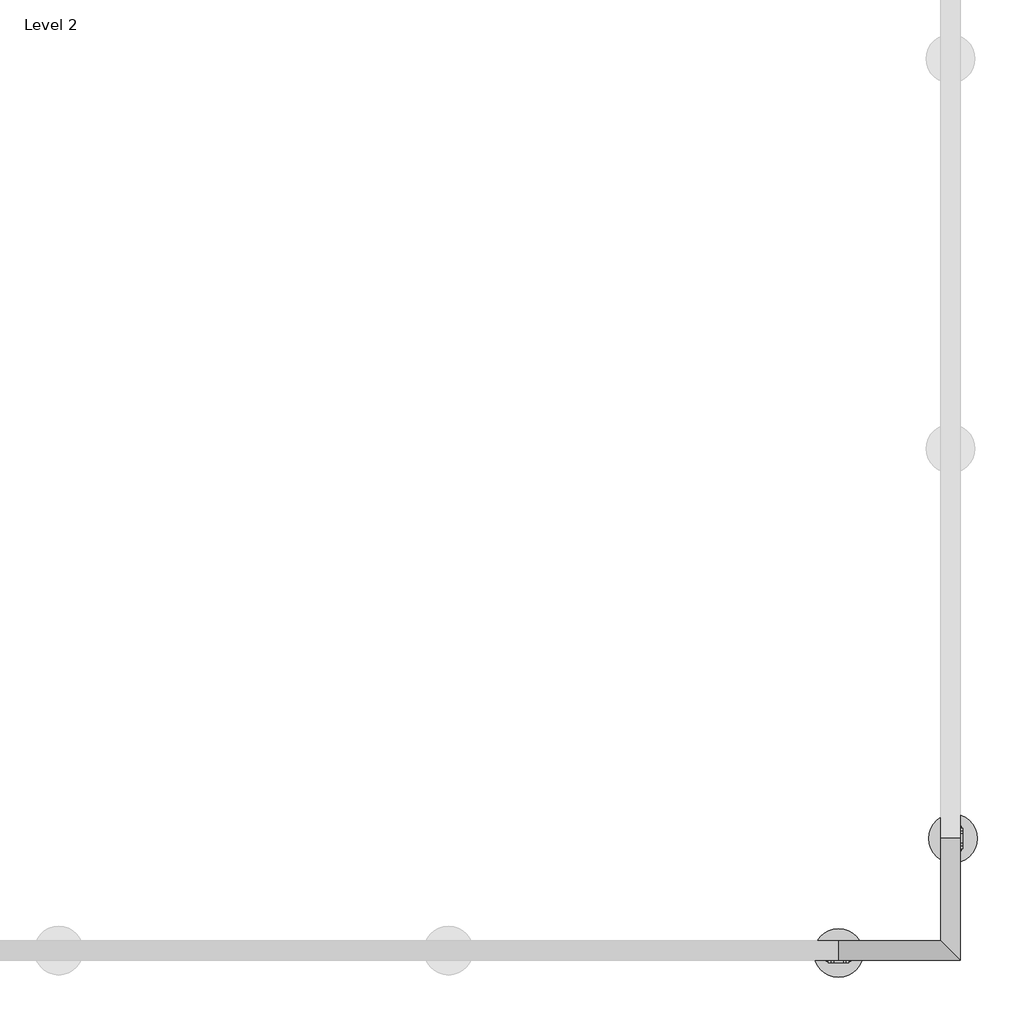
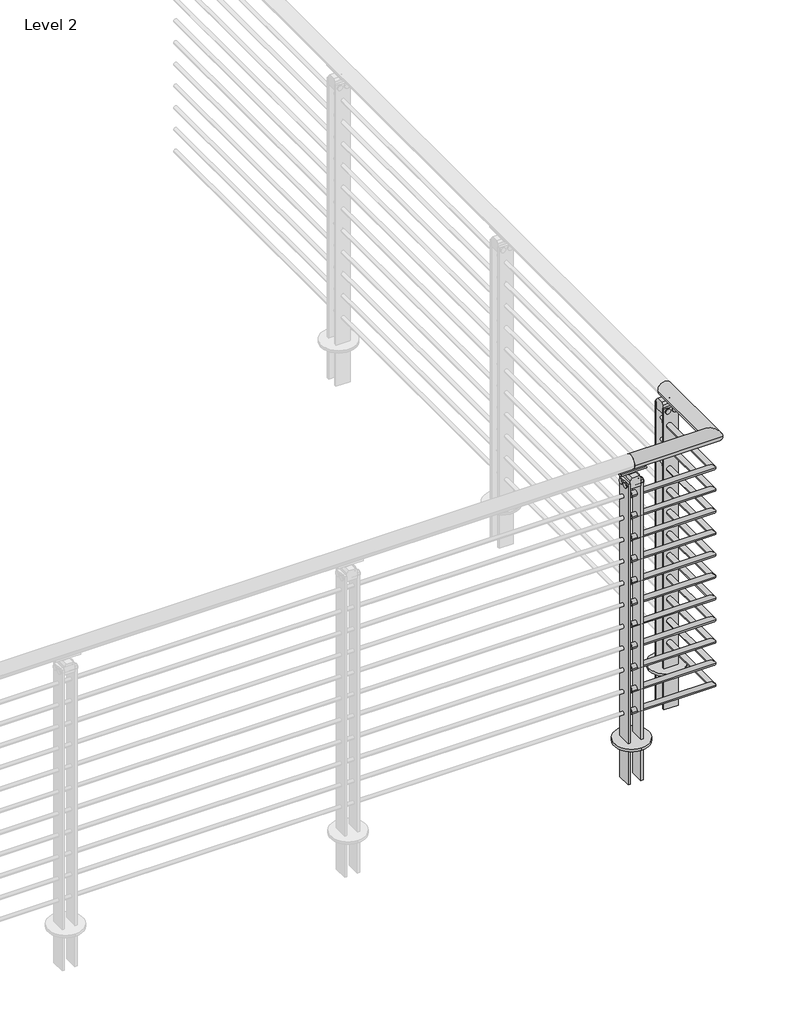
# One storey, part 18 of 31: 1 railing.
"""IFC4 building model written with IfcOpenShell, lengths in millimetres."""

import ifcopenshell
import ifcopenshell.guid

model = None  # the IFC model being written
_history = None  # IfcOwnerHistory: only IFC2X3 demands one
_inside = {}  # id of a spatial element -> (the spatial element, [elements in it])
_under = {}  # id of a project, library or spatial element -> (it, [spatial elements below it])
_declared = {}  # id of a project -> (the project, [libraries it declares])
_typed = {}  # id of a type object -> (the type object, [elements of that type])
_made_of = {}  # id of a material, layer set ... -> (it, [elements and type objects made of it])


def new_model(schema):
    """Start an empty IFC model of exactly this schema.

    Asked for "IFC4X3", IfcOpenShell would pick the latest addendum, in which some entities
    have other attributes; the version numbers below select the first issue.
    IFC2X3 requires an IfcOwnerHistory on every rooted entity: one is made here for all.
    """
    global model, _history
    if schema == "IFC4X3":
        model = ifcopenshell.file(schema_version=(4, 3, 0, 0))
    else:
        model = ifcopenshell.file(schema=schema)
    _inside.clear()
    _under.clear()
    _declared.clear()
    _typed.clear()
    _made_of.clear()
    _history = None
    if model.schema == "IFC2X3":
        org = make("IfcOrganization", Name="unknown")
        user = make(
            "IfcPersonAndOrganization",
            ThePerson=make("IfcPerson", FamilyName="unknown"),
            TheOrganization=org,
        )
        app = make(
            "IfcApplication",
            ApplicationDeveloper=org,
            Version="unknown",
            ApplicationFullName="unknown",
            ApplicationIdentifier="unknown",
        )
        _history = make(
            "IfcOwnerHistory",
            OwningUser=user,
            OwningApplication=app,
            ChangeAction="ADDED",
            CreationDate=0,
        )
    return model


def make(cls, **values):
    """One entity of the class cls with the attributes given. An attribute that is None is left unset."""
    return model.create_entity(
        cls, **{name: value for name, value in values.items() if value is not None}
    )


def rooted(cls, **values):
    """An entity with a GlobalId (a new one), such as an element, a storey or a relation."""
    return make(cls, GlobalId=ifcopenshell.guid.new(), OwnerHistory=_history, **values)


def si_unit(unit_type, name, prefix=None):
    """IfcSIUnit, for example si_unit("LENGTHUNIT", "METRE", prefix="MILLI")."""
    return make("IfcSIUnit", UnitType=unit_type, Prefix=prefix, Name=name)


def assignment(units):
    """IfcUnitAssignment: the units of a project."""
    return None if units is None else make("IfcUnitAssignment", Units=units)


def point(xyz):
    """IfcCartesianPoint."""
    return None if xyz is None else make("IfcCartesianPoint", Coordinates=xyz)


def direction(xyz):
    """IfcDirection."""
    return None if xyz is None else make("IfcDirection", DirectionRatios=xyz)


def frame(location, z_axis=None, x_axis=None):
    """IfcAxis2Placement3D, a coordinate frame: its origin and axes. An axis left out is left unset."""
    return make(
        "IfcAxis2Placement3D",
        Location=point(location),
        Axis=direction(z_axis),
        RefDirection=direction(x_axis),
    )


def frame_2d(location, x_axis=None):
    """IfcAxis2Placement2D, a coordinate frame in the plane: its origin and x axis."""
    return make(
        "IfcAxis2Placement2D", Location=point(location), RefDirection=direction(x_axis)
    )


def origin():
    """The frame at (0, 0, 0) with its axes left unset."""
    return frame((0.0, 0.0, 0.0))


def place(relative_to, where):
    """IfcLocalPlacement: puts the frame where relative to a parent placement (None: the world)."""
    return make(
        "IfcLocalPlacement", PlacementRelTo=relative_to, RelativePlacement=where
    )


def context(
    kind, dimensions, precision=None, world=None, true_north=None, identifier=None
):
    """IfcGeometricRepresentationContext, for example the 3D "Model" context."""
    return make(
        "IfcGeometricRepresentationContext",
        ContextIdentifier=identifier,
        ContextType=kind,
        CoordinateSpaceDimension=dimensions,
        Precision=precision,
        WorldCoordinateSystem=world,
        TrueNorth=true_north,
    )


def project(units=None, contexts=None):
    """IfcProject with its units and contexts."""
    return rooted(
        "IfcProject",
        Name="project",
        RepresentationContexts=contexts,
        UnitsInContext=assignment(units),
    )


def spatial(cls, under=None, at=None, **own):
    """A site, building, storey or space (cls), placed at a placement, below another one or the project."""
    s = rooted(cls, ObjectPlacement=at, **own)
    if under is not None:
        _under.setdefault(under.id(), (under, []))[1].append(s)
    return s


def polyline(points):
    """IfcPolyline through the points."""
    return make("IfcPolyline", Points=[point(p) for p in points])


def circle_curve(where, radius):
    """IfcCircle in the frame where."""
    return make("IfcCircle", Position=where, Radius=radius)


def ellipse_curve(where, semi_axis1, semi_axis2):
    """IfcEllipse in the frame where."""
    return make(
        "IfcEllipse", Position=where, SemiAxis1=semi_axis1, SemiAxis2=semi_axis2
    )


def trimmed(basis, trim1, trim2, sense, master):
    """IfcTrimmedCurve: the piece of a basis curve between two trims."""
    return make(
        "IfcTrimmedCurve",
        BasisCurve=basis,
        Trim1=trim1,
        Trim2=trim2,
        SenseAgreement=sense,
        MasterRepresentation=master,
    )


def segment(curve, same_sense, transition):
    """IfcCompositeCurveSegment."""
    return make(
        "IfcCompositeCurveSegment",
        Transition=transition,
        SameSense=same_sense,
        ParentCurve=curve,
    )


def composite_curve(segments, self_intersect=None):
    """IfcCompositeCurve: segments joined end to end."""
    return make("IfcCompositeCurve", Segments=segments, SelfIntersect=self_intersect)


def outline(outer, holes=None, kind="AREA"):
    """IfcArbitraryClosedProfileDef: a profile drawn as a closed curve; with holes, ...WithVoids."""
    if holes is None:
        return make("IfcArbitraryClosedProfileDef", ProfileType=kind, OuterCurve=outer)
    return make(
        "IfcArbitraryProfileDefWithVoids",
        ProfileType=kind,
        OuterCurve=outer,
        InnerCurves=holes,
    )


def extrude(swept, where, along, depth):
    """IfcExtrudedAreaSolid: the profile swept, set in the frame where, extruded along a direction by depth."""
    return make(
        "IfcExtrudedAreaSolid",
        SweptArea=swept,
        Position=where,
        ExtrudedDirection=direction(along),
        Depth=depth,
    )


def shape(context_of_items, identifier, shape_type, items):
    """IfcShapeRepresentation: the items that make up one representation, for example the "Body"."""
    return make(
        "IfcShapeRepresentation",
        ContextOfItems=context_of_items,
        RepresentationIdentifier=identifier,
        RepresentationType=shape_type,
        Items=items,
    )


def made_of(thing, what):
    """Note that an element or type object is made of a material, layer set ...; save() writes the relation."""
    if what is not None:
        _made_of.setdefault(what.id(), (what, []))[1].append(thing)
    return thing


def element(
    cls,
    number,
    at=None,
    inside=None,
    cuts=None,
    type_object=None,
    material=None,
    context=None,
    identifier="Body",
    shape_type=None,
    held_by="IfcProductDefinitionShape",
    body=None,
    shapes=None,
    **own,
):
    """One element of the class cls, such as IfcWall. Its Tag is "e" and its number.

    at: its placement. inside: the storey or other place that contains it. cuts: it is an
    opening in that element (IfcRelVoidsElement). A single representation is given by context,
    identifier, shape_type and body (its items); several are given by shapes. held_by: the class
    of the entity that holds the representations. save() writes the other relations.
    """
    e = rooted(cls, Tag="e%d" % number, ObjectPlacement=at, **own)
    if body is not None:
        shapes = [shape(context, identifier, shape_type, body)]
    if shapes is not None:
        e.Representation = make(held_by, Representations=shapes)
    if inside is not None:
        _inside.setdefault(inside.id(), (inside, []))[1].append(e)
    if cuts is not None:
        rooted(
            "IfcRelVoidsElement", RelatingBuildingElement=cuts, RelatedOpeningElement=e
        )
    if type_object is not None:
        _typed.setdefault(type_object.id(), (type_object, []))[1].append(e)
    return made_of(e, material)


def aggregate(whole, parts):
    """IfcRelAggregates: a whole, such as a stair, and the parts it consists of."""
    return rooted("IfcRelAggregates", RelatingObject=whole, RelatedObjects=parts)


def save(model, path):
    """Write the relations noted so far, then the file.

    IfcRelAggregates (storeys below a building ...), IfcRelContainedInSpatialStructure (elements
    in a storey), IfcRelDefinesByType, IfcRelAssociatesMaterial and IfcRelDeclares: one each for
    every whole, place, type object, material and project.
    """
    for whole, parts in _under.values():
        aggregate(whole, parts)
    for where, things in _inside.values():
        rooted(
            "IfcRelContainedInSpatialStructure",
            RelatedElements=things,
            RelatingStructure=where,
        )
    for kind, things in _typed.values():
        rooted("IfcRelDefinesByType", RelatedObjects=things, RelatingType=kind)
    for what, things in _made_of.values():
        rooted("IfcRelAssociatesMaterial", RelatedObjects=things, RelatingMaterial=what)
    for by, libraries in _declared.values():
        rooted("IfcRelDeclares", RelatingContext=by, RelatedDefinitions=libraries)
    model.write(path)


def plane_surface(at):
    """IfcPlane: the flat surface through the origin of the frame at, square to its z axis."""
    return make("IfcPlane", Position=at)


def cylinder_surface(at, radius):
    """IfcCylindricalSurface: all points at the distance radius from the z axis of the frame at."""
    return make("IfcCylindricalSurface", Position=at, Radius=radius)


def revolved_surface(curve, axis_point, axis_direction):
    """IfcSurfaceOfRevolution: the curve turned about the line through axis_point along axis_direction."""
    return make(
        "IfcSurfaceOfRevolution",
        SweptCurve=make("IfcArbitraryOpenProfileDef", ProfileType="CURVE", Curve=curve),
        AxisPosition=make("IfcAxis1Placement", Location=point(axis_point), Axis=direction(axis_direction)),
    )


def advanced_brep(points, edges, surfaces, faces):
    """IfcAdvancedBrep: a solid bounded by faces that lie on surfaces and meet in shared edges.

    An edge is (start, end): straight between two places in points (the first is 0);
    or (start, end, curve); or (start, end, curve, False) where it runs against its curve.
    A face is (place in surfaces, loops), or (place, loops, False) where it looks against
    its surface's normal. A loop lists edges by number (the first is 1), with a minus sign
    where the edge is run from its end to its start. The first loop is the outer one.
    """
    corners = [point(p) for p in points]
    vertices = [make("IfcVertexPoint", VertexGeometry=c) for c in corners]
    made = []
    for start, end, *more in edges:
        made.append(
            make(
                "IfcEdgeCurve",
                EdgeStart=vertices[start],
                EdgeEnd=vertices[end],
                EdgeGeometry=more[0] if more else make("IfcPolyline", Points=[corners[start], corners[end]]),
                SameSense=more[1] if len(more) > 1 else True,
            )
        )
    hull = []
    for where, loops, *sense in faces:
        bounds = []
        for j, loop in enumerate(loops):
            ring = [make("IfcOrientedEdge", EdgeElement=made[abs(k) - 1], Orientation=k > 0) for k in loop]
            bounds.append(
                make(
                    "IfcFaceOuterBound" if j == 0 else "IfcFaceBound",
                    Bound=make("IfcEdgeLoop", EdgeList=ring),
                    Orientation=True,
                )
            )
        hull.append(make("IfcAdvancedFace", Bounds=bounds, FaceSurface=surfaces[where], SameSense=sense[0] if sense else True))
    return make("IfcAdvancedBrep", Outer=make("IfcClosedShell", CfsFaces=hull))


model = new_model("IFC4")

# Units and contexts
model_context = context("Model", 3, world=origin())
ifc_project = project(units=[si_unit("LENGTHUNIT", "METRE", prefix="MILLI")], contexts=[model_context])

# Site, building, storey
site = spatial("IfcSite", under=ifc_project)
building = spatial("IfcBuilding", under=site)
storey = spatial("IfcBuildingStorey", under=building, Name="Level 2", Elevation=3048.0)

# Railing
placement = place(None, origin())
element("IfcRailing", 1, ObjectType="VIVA-BLADE-Multiline-Core Mount-Corner", at=placement, inside=storey, context=model_context, shape_type="SolidModel", body=[
    advanced_brep(
    [(70792.0617686, -69960.9426165, 4102.1), (70792.0617686, -69910.1426165, 4102.1), (71109.5617686, -69960.9426165, 4102.1), (71058.7617686, -69910.1426165, 4102.1), (71109.5617686, -69643.4426165, 4102.1), (71058.7617686, -69643.4426165, 4102.1)],
    [
        (0, 1, circle_curve(frame((70792.0617686, -69935.5426165, 4102.1), z_axis=(-1.0, 0.0, 0.0), x_axis=(0.0, 1.0, 0.0)), 25.4)),
        (1, 0, circle_curve(frame((70792.0617686, -69935.5426165, 4102.1), z_axis=(-1.0, 0.0, 0.0), x_axis=(0.0, 1.0, 0.0)), 25.4)),
        (0, 2),
        (2, 3, ellipse_curve(frame((71084.1617686, -69935.5426165, 4102.1), z_axis=(-0.7071067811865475, -0.7071067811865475, 0.0), x_axis=(-0.7071067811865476, 0.7071067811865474, 0.0)), 35.9210245, 25.4)),
        (3, 1),
        (3, 2, ellipse_curve(frame((71084.1617686, -69935.5426165, 4102.1), z_axis=(-0.7071067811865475, -0.7071067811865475, 0.0), x_axis=(-0.7071067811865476, 0.7071067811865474, 0.0)), 35.9210245, 25.4)),
        (4, 5, circle_curve(frame((71084.1617686, -69643.4426165, 4102.1), z_axis=(0.0, 1.0, 0.0), x_axis=(-1.0, 0.0, 0.0)), 25.4)),
        (5, 4, circle_curve(frame((71084.1617686, -69643.4426165, 4102.1), z_axis=(0.0, 1.0, 0.0), x_axis=(-1.0, 0.0, 0.0)), 25.4)),
        (2, 4),
        (5, 3),
    ],
    [
        plane_surface(frame((70792.0617686, -69935.5426165, 4127.5), z_axis=(-1.0, 0.0, 0.0), x_axis=(0.0, 1.0, 0.0))),
        cylinder_surface(frame((70792.0617686, -69935.5426165, 4102.1), z_axis=(-1.0, 0.0, 0.0), x_axis=(0.0, 1.0, 0.0)), 25.4),
        plane_surface(frame((71084.1617686, -69643.4426165, 4127.5), z_axis=(0.0, 1.0, 0.0), x_axis=(0.0, 0.0, 1.0))),
        cylinder_surface(frame((71084.1617686, -69935.5426165, 4102.1), z_axis=(0.0, -1.0, 0.0), x_axis=(-1.0, 0.0, 0.0)), 25.4),
    ],
    [
        (0, [[1, 2]]),
        (1, [[-1, 3, 4, 5]]),
        (1, [[-2, -5, 6, -3]]),
        (2, [[7, 8]]),
        (3, [[-4, 9, -8, 10]]),
        (3, [[-6, -10, -7, -9]]),
    ],
),
    advanced_brep(
    [(70792.0617686, -69926.0176165, 3978.275), (70792.0617686, -69945.0676165, 3978.275), (71074.6367686, -69926.0176165, 3978.275), (71093.6867686, -69945.0676165, 3978.275), (71074.6367686, -69643.4426165, 3978.275), (71093.6867686, -69643.4426165, 3978.275)],
    [
        (0, 1, circle_curve(frame((70792.0617686, -69935.5426165, 3978.275), z_axis=(-1.0, 0.0, 0.0), x_axis=(0.0, -1.0, 0.0)), 9.525)),
        (1, 0, circle_curve(frame((70792.0617686, -69935.5426165, 3978.275), z_axis=(-1.0, 0.0, 0.0), x_axis=(0.0, -1.0, 0.0)), 9.525)),
        (0, 2),
        (2, 3, ellipse_curve(frame((71084.1617686, -69935.5426165, 3978.275), z_axis=(-0.7071067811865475, -0.7071067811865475, 0.0), x_axis=(-0.7071067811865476, 0.7071067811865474, 0.0)), 13.4703842, 9.525)),
        (3, 1),
        (3, 2, ellipse_curve(frame((71084.1617686, -69935.5426165, 3978.275), z_axis=(-0.7071067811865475, -0.7071067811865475, 0.0), x_axis=(-0.7071067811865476, 0.7071067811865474, 0.0)), 13.4703842, 9.525)),
        (4, 5, circle_curve(frame((71084.1617686, -69643.4426165, 3978.275), z_axis=(0.0, 1.0, 0.0), x_axis=(1.0, 0.0, 0.0)), 9.525)),
        (5, 4, circle_curve(frame((71084.1617686, -69643.4426165, 3978.275), z_axis=(0.0, 1.0, 0.0), x_axis=(1.0, 0.0, 0.0)), 9.525)),
        (2, 4),
        (5, 3),
    ],
    [
        plane_surface(frame((70792.0617686, -69935.5426165, 3987.8), z_axis=(-1.0, 0.0, 0.0), x_axis=(0.0, 1.0, 0.0))),
        cylinder_surface(frame((70792.0617686, -69935.5426165, 3978.275), z_axis=(-1.0, 0.0, 0.0), x_axis=(0.0, -1.0, 0.0)), 9.525),
        plane_surface(frame((71084.1617686, -69643.4426165, 3987.8), z_axis=(0.0, 1.0, 0.0), x_axis=(0.0, 0.0, 1.0))),
        cylinder_surface(frame((71084.1617686, -69935.5426165, 3978.275), z_axis=(0.0, -1.0, 0.0), x_axis=(1.0, 0.0, 0.0)), 9.525),
    ],
    [
        (0, [[1, 2]]),
        (1, [[-1, 3, 4, 5]]),
        (1, [[-2, -5, 6, -3]]),
        (2, [[7, 8]]),
        (3, [[-4, 9, -8, 10]]),
        (3, [[-6, -10, -7, -9]]),
    ],
),
    advanced_brep(
    [(70792.0617686, -69926.0176165, 3895.725), (70792.0617686, -69945.0676165, 3895.725), (71074.6367686, -69926.0176165, 3895.725), (71093.6867686, -69945.0676165, 3895.725), (71074.6367686, -69643.4426165, 3895.725), (71093.6867686, -69643.4426165, 3895.725)],
    [
        (0, 1, circle_curve(frame((70792.0617686, -69935.5426165, 3895.725), z_axis=(-1.0, 0.0, 0.0), x_axis=(0.0, -1.0, 0.0)), 9.525)),
        (1, 0, circle_curve(frame((70792.0617686, -69935.5426165, 3895.725), z_axis=(-1.0, 0.0, 0.0), x_axis=(0.0, -1.0, 0.0)), 9.525)),
        (0, 2),
        (2, 3, ellipse_curve(frame((71084.1617686, -69935.5426165, 3895.725), z_axis=(-0.7071067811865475, -0.7071067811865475, 0.0), x_axis=(-0.7071067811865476, 0.7071067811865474, 0.0)), 13.4703842, 9.525)),
        (3, 1),
        (3, 2, ellipse_curve(frame((71084.1617686, -69935.5426165, 3895.725), z_axis=(-0.7071067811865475, -0.7071067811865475, 0.0), x_axis=(-0.7071067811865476, 0.7071067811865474, 0.0)), 13.4703842, 9.525)),
        (4, 5, circle_curve(frame((71084.1617686, -69643.4426165, 3895.725), z_axis=(0.0, 1.0, 0.0), x_axis=(1.0, 0.0, 0.0)), 9.525)),
        (5, 4, circle_curve(frame((71084.1617686, -69643.4426165, 3895.725), z_axis=(0.0, 1.0, 0.0), x_axis=(1.0, 0.0, 0.0)), 9.525)),
        (2, 4),
        (5, 3),
    ],
    [
        plane_surface(frame((70792.0617686, -69935.5426165, 3905.25), z_axis=(-1.0, 0.0, 0.0), x_axis=(0.0, 1.0, 0.0))),
        cylinder_surface(frame((70792.0617686, -69935.5426165, 3895.725), z_axis=(-1.0, 0.0, 0.0), x_axis=(0.0, -1.0, 0.0)), 9.525),
        plane_surface(frame((71084.1617686, -69643.4426165, 3905.25), z_axis=(0.0, 1.0, 0.0), x_axis=(0.0, 0.0, 1.0))),
        cylinder_surface(frame((71084.1617686, -69935.5426165, 3895.725), z_axis=(0.0, -1.0, 0.0), x_axis=(1.0, 0.0, 0.0)), 9.525),
    ],
    [
        (0, [[1, 2]]),
        (1, [[-1, 3, 4, 5]]),
        (1, [[-2, -5, 6, -3]]),
        (2, [[7, 8]]),
        (3, [[-4, 9, -8, 10]]),
        (3, [[-6, -10, -7, -9]]),
    ],
),
    advanced_brep(
    [(70792.0617686, -69926.0176165, 3813.175), (70792.0617686, -69945.0676165, 3813.175), (71074.6367686, -69926.0176165, 3813.175), (71093.6867686, -69945.0676165, 3813.175), (71074.6367686, -69643.4426165, 3813.175), (71093.6867686, -69643.4426165, 3813.175)],
    [
        (0, 1, circle_curve(frame((70792.0617686, -69935.5426165, 3813.175), z_axis=(-1.0, 0.0, 0.0), x_axis=(0.0, -1.0, 0.0)), 9.525)),
        (1, 0, circle_curve(frame((70792.0617686, -69935.5426165, 3813.175), z_axis=(-1.0, 0.0, 0.0), x_axis=(0.0, -1.0, 0.0)), 9.525)),
        (0, 2),
        (2, 3, ellipse_curve(frame((71084.1617686, -69935.5426165, 3813.175), z_axis=(-0.7071067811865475, -0.7071067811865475, 0.0), x_axis=(-0.7071067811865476, 0.7071067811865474, 0.0)), 13.4703842, 9.525)),
        (3, 1),
        (3, 2, ellipse_curve(frame((71084.1617686, -69935.5426165, 3813.175), z_axis=(-0.7071067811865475, -0.7071067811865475, 0.0), x_axis=(-0.7071067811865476, 0.7071067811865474, 0.0)), 13.4703842, 9.525)),
        (4, 5, circle_curve(frame((71084.1617686, -69643.4426165, 3813.175), z_axis=(0.0, 1.0, 0.0), x_axis=(1.0, 0.0, 0.0)), 9.525)),
        (5, 4, circle_curve(frame((71084.1617686, -69643.4426165, 3813.175), z_axis=(0.0, 1.0, 0.0), x_axis=(1.0, 0.0, 0.0)), 9.525)),
        (2, 4),
        (5, 3),
    ],
    [
        plane_surface(frame((70792.0617686, -69935.5426165, 3822.7), z_axis=(-1.0, 0.0, 0.0), x_axis=(0.0, 1.0, 0.0))),
        cylinder_surface(frame((70792.0617686, -69935.5426165, 3813.175), z_axis=(-1.0, 0.0, 0.0), x_axis=(0.0, -1.0, 0.0)), 9.525),
        plane_surface(frame((71084.1617686, -69643.4426165, 3822.7), z_axis=(0.0, 1.0, 0.0), x_axis=(0.0, 0.0, 1.0))),
        cylinder_surface(frame((71084.1617686, -69935.5426165, 3813.175), z_axis=(0.0, -1.0, 0.0), x_axis=(1.0, 0.0, 0.0)), 9.525),
    ],
    [
        (0, [[1, 2]]),
        (1, [[-1, 3, 4, 5]]),
        (1, [[-2, -5, 6, -3]]),
        (2, [[7, 8]]),
        (3, [[-4, 9, -8, 10]]),
        (3, [[-6, -10, -7, -9]]),
    ],
),
    advanced_brep(
    [(70792.0617686, -69926.0176165, 3730.625), (70792.0617686, -69945.0676165, 3730.625), (71074.6367686, -69926.0176165, 3730.625), (71093.6867686, -69945.0676165, 3730.625), (71074.6367686, -69643.4426165, 3730.625), (71093.6867686, -69643.4426165, 3730.625)],
    [
        (0, 1, circle_curve(frame((70792.0617686, -69935.5426165, 3730.625), z_axis=(-1.0, 0.0, 0.0), x_axis=(0.0, -1.0, 0.0)), 9.525)),
        (1, 0, circle_curve(frame((70792.0617686, -69935.5426165, 3730.625), z_axis=(-1.0, 0.0, 0.0), x_axis=(0.0, -1.0, 0.0)), 9.525)),
        (0, 2),
        (2, 3, ellipse_curve(frame((71084.1617686, -69935.5426165, 3730.625), z_axis=(-0.7071067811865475, -0.7071067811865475, 0.0), x_axis=(-0.7071067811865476, 0.7071067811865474, 0.0)), 13.4703842, 9.525)),
        (3, 1),
        (3, 2, ellipse_curve(frame((71084.1617686, -69935.5426165, 3730.625), z_axis=(-0.7071067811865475, -0.7071067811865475, 0.0), x_axis=(-0.7071067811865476, 0.7071067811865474, 0.0)), 13.4703842, 9.525)),
        (4, 5, circle_curve(frame((71084.1617686, -69643.4426165, 3730.625), z_axis=(0.0, 1.0, 0.0), x_axis=(1.0, 0.0, 0.0)), 9.525)),
        (5, 4, circle_curve(frame((71084.1617686, -69643.4426165, 3730.625), z_axis=(0.0, 1.0, 0.0), x_axis=(1.0, 0.0, 0.0)), 9.525)),
        (2, 4),
        (5, 3),
    ],
    [
        plane_surface(frame((70792.0617686, -69935.5426165, 3740.15), z_axis=(-1.0, 0.0, 0.0), x_axis=(0.0, 1.0, 0.0))),
        cylinder_surface(frame((70792.0617686, -69935.5426165, 3730.625), z_axis=(-1.0, 0.0, 0.0), x_axis=(0.0, -1.0, 0.0)), 9.525),
        plane_surface(frame((71084.1617686, -69643.4426165, 3740.15), z_axis=(0.0, 1.0, 0.0), x_axis=(0.0, 0.0, 1.0))),
        cylinder_surface(frame((71084.1617686, -69935.5426165, 3730.625), z_axis=(0.0, -1.0, 0.0), x_axis=(1.0, 0.0, 0.0)), 9.525),
    ],
    [
        (0, [[1, 2]]),
        (1, [[-1, 3, 4, 5]]),
        (1, [[-2, -5, 6, -3]]),
        (2, [[7, 8]]),
        (3, [[-4, 9, -8, 10]]),
        (3, [[-6, -10, -7, -9]]),
    ],
),
    advanced_brep(
    [(70792.0617686, -69926.0176165, 3648.075), (70792.0617686, -69945.0676165, 3648.075), (71074.6367686, -69926.0176165, 3648.075), (71093.6867686, -69945.0676165, 3648.075), (71074.6367686, -69643.4426165, 3648.075), (71093.6867686, -69643.4426165, 3648.075)],
    [
        (0, 1, circle_curve(frame((70792.0617686, -69935.5426165, 3648.075), z_axis=(-1.0, 0.0, 0.0), x_axis=(0.0, -1.0, 0.0)), 9.525)),
        (1, 0, circle_curve(frame((70792.0617686, -69935.5426165, 3648.075), z_axis=(-1.0, 0.0, 0.0), x_axis=(0.0, -1.0, 0.0)), 9.525)),
        (0, 2),
        (2, 3, ellipse_curve(frame((71084.1617686, -69935.5426165, 3648.075), z_axis=(-0.7071067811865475, -0.7071067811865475, 0.0), x_axis=(-0.7071067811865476, 0.7071067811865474, 0.0)), 13.4703842, 9.525)),
        (3, 1),
        (3, 2, ellipse_curve(frame((71084.1617686, -69935.5426165, 3648.075), z_axis=(-0.7071067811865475, -0.7071067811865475, 0.0), x_axis=(-0.7071067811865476, 0.7071067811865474, 0.0)), 13.4703842, 9.525)),
        (4, 5, circle_curve(frame((71084.1617686, -69643.4426165, 3648.075), z_axis=(0.0, 1.0, 0.0), x_axis=(1.0, 0.0, 0.0)), 9.525)),
        (5, 4, circle_curve(frame((71084.1617686, -69643.4426165, 3648.075), z_axis=(0.0, 1.0, 0.0), x_axis=(1.0, 0.0, 0.0)), 9.525)),
        (2, 4),
        (5, 3),
    ],
    [
        plane_surface(frame((70792.0617686, -69935.5426165, 3657.6), z_axis=(-1.0, 0.0, 0.0), x_axis=(0.0, 1.0, 0.0))),
        cylinder_surface(frame((70792.0617686, -69935.5426165, 3648.075), z_axis=(-1.0, 0.0, 0.0), x_axis=(0.0, -1.0, 0.0)), 9.525),
        plane_surface(frame((71084.1617686, -69643.4426165, 3657.6), z_axis=(0.0, 1.0, 0.0), x_axis=(0.0, 0.0, 1.0))),
        cylinder_surface(frame((71084.1617686, -69935.5426165, 3648.075), z_axis=(0.0, -1.0, 0.0), x_axis=(1.0, 0.0, 0.0)), 9.525),
    ],
    [
        (0, [[1, 2]]),
        (1, [[-1, 3, 4, 5]]),
        (1, [[-2, -5, 6, -3]]),
        (2, [[7, 8]]),
        (3, [[-4, 9, -8, 10]]),
        (3, [[-6, -10, -7, -9]]),
    ],
),
    advanced_brep(
    [(70792.0617686, -69926.0176165, 3565.525), (70792.0617686, -69945.0676165, 3565.525), (71074.6367686, -69926.0176165, 3565.525), (71093.6867686, -69945.0676165, 3565.525), (71074.6367686, -69643.4426165, 3565.525), (71093.6867686, -69643.4426165, 3565.525)],
    [
        (0, 1, circle_curve(frame((70792.0617686, -69935.5426165, 3565.525), z_axis=(-1.0, 0.0, 0.0), x_axis=(0.0, -1.0, 0.0)), 9.525)),
        (1, 0, circle_curve(frame((70792.0617686, -69935.5426165, 3565.525), z_axis=(-1.0, 0.0, 0.0), x_axis=(0.0, -1.0, 0.0)), 9.525)),
        (0, 2),
        (2, 3, ellipse_curve(frame((71084.1617686, -69935.5426165, 3565.525), z_axis=(-0.7071067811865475, -0.7071067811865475, 0.0), x_axis=(-0.7071067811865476, 0.7071067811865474, 0.0)), 13.4703842, 9.525)),
        (3, 1),
        (3, 2, ellipse_curve(frame((71084.1617686, -69935.5426165, 3565.525), z_axis=(-0.7071067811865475, -0.7071067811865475, 0.0), x_axis=(-0.7071067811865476, 0.7071067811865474, 0.0)), 13.4703842, 9.525)),
        (4, 5, circle_curve(frame((71084.1617686, -69643.4426165, 3565.525), z_axis=(0.0, 1.0, 0.0), x_axis=(1.0, 0.0, 0.0)), 9.525)),
        (5, 4, circle_curve(frame((71084.1617686, -69643.4426165, 3565.525), z_axis=(0.0, 1.0, 0.0), x_axis=(1.0, 0.0, 0.0)), 9.525)),
        (2, 4),
        (5, 3),
    ],
    [
        plane_surface(frame((70792.0617686, -69935.5426165, 3575.05), z_axis=(-1.0, 0.0, 0.0), x_axis=(0.0, 1.0, 0.0))),
        cylinder_surface(frame((70792.0617686, -69935.5426165, 3565.525), z_axis=(-1.0, 0.0, 0.0), x_axis=(0.0, -1.0, 0.0)), 9.525),
        plane_surface(frame((71084.1617686, -69643.4426165, 3575.05), z_axis=(0.0, 1.0, 0.0), x_axis=(0.0, 0.0, 1.0))),
        cylinder_surface(frame((71084.1617686, -69935.5426165, 3565.525), z_axis=(0.0, -1.0, 0.0), x_axis=(1.0, 0.0, 0.0)), 9.525),
    ],
    [
        (0, [[1, 2]]),
        (1, [[-1, 3, 4, 5]]),
        (1, [[-2, -5, 6, -3]]),
        (2, [[7, 8]]),
        (3, [[-4, 9, -8, 10]]),
        (3, [[-6, -10, -7, -9]]),
    ],
),
    advanced_brep(
    [(70792.0617686, -69926.0176165, 3482.975), (70792.0617686, -69945.0676165, 3482.975), (71074.6367686, -69926.0176165, 3482.975), (71093.6867686, -69945.0676165, 3482.975), (71074.6367686, -69643.4426165, 3482.975), (71093.6867686, -69643.4426165, 3482.975)],
    [
        (0, 1, circle_curve(frame((70792.0617686, -69935.5426165, 3482.975), z_axis=(-1.0, 0.0, 0.0), x_axis=(0.0, -1.0, 0.0)), 9.525)),
        (1, 0, circle_curve(frame((70792.0617686, -69935.5426165, 3482.975), z_axis=(-1.0, 0.0, 0.0), x_axis=(0.0, -1.0, 0.0)), 9.525)),
        (0, 2),
        (2, 3, ellipse_curve(frame((71084.1617686, -69935.5426165, 3482.975), z_axis=(-0.7071067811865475, -0.7071067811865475, 0.0), x_axis=(-0.7071067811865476, 0.7071067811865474, 0.0)), 13.4703842, 9.525)),
        (3, 1),
        (3, 2, ellipse_curve(frame((71084.1617686, -69935.5426165, 3482.975), z_axis=(-0.7071067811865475, -0.7071067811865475, 0.0), x_axis=(-0.7071067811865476, 0.7071067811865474, 0.0)), 13.4703842, 9.525)),
        (4, 5, circle_curve(frame((71084.1617686, -69643.4426165, 3482.975), z_axis=(0.0, 1.0, 0.0), x_axis=(1.0, 0.0, 0.0)), 9.525)),
        (5, 4, circle_curve(frame((71084.1617686, -69643.4426165, 3482.975), z_axis=(0.0, 1.0, 0.0), x_axis=(1.0, 0.0, 0.0)), 9.525)),
        (2, 4),
        (5, 3),
    ],
    [
        plane_surface(frame((70792.0617686, -69935.5426165, 3492.5), z_axis=(-1.0, 0.0, 0.0), x_axis=(0.0, 1.0, 0.0))),
        cylinder_surface(frame((70792.0617686, -69935.5426165, 3482.975), z_axis=(-1.0, 0.0, 0.0), x_axis=(0.0, -1.0, 0.0)), 9.525),
        plane_surface(frame((71084.1617686, -69643.4426165, 3492.5), z_axis=(0.0, 1.0, 0.0), x_axis=(0.0, 0.0, 1.0))),
        cylinder_surface(frame((71084.1617686, -69935.5426165, 3482.975), z_axis=(0.0, -1.0, 0.0), x_axis=(1.0, 0.0, 0.0)), 9.525),
    ],
    [
        (0, [[1, 2]]),
        (1, [[-1, 3, 4, 5]]),
        (1, [[-2, -5, 6, -3]]),
        (2, [[7, 8]]),
        (3, [[-4, 9, -8, 10]]),
        (3, [[-6, -10, -7, -9]]),
    ],
),
    advanced_brep(
    [(70792.0617686, -69926.0176165, 3400.425), (70792.0617686, -69945.0676165, 3400.425), (71074.6367686, -69926.0176165, 3400.425), (71093.6867686, -69945.0676165, 3400.425), (71074.6367686, -69643.4426165, 3400.425), (71093.6867686, -69643.4426165, 3400.425)],
    [
        (0, 1, circle_curve(frame((70792.0617686, -69935.5426165, 3400.425), z_axis=(-1.0, 0.0, 0.0), x_axis=(0.0, -1.0, 0.0)), 9.525)),
        (1, 0, circle_curve(frame((70792.0617686, -69935.5426165, 3400.425), z_axis=(-1.0, 0.0, 0.0), x_axis=(0.0, -1.0, 0.0)), 9.525)),
        (0, 2),
        (2, 3, ellipse_curve(frame((71084.1617686, -69935.5426165, 3400.425), z_axis=(-0.7071067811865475, -0.7071067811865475, 0.0), x_axis=(-0.7071067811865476, 0.7071067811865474, 0.0)), 13.4703842, 9.525)),
        (3, 1),
        (3, 2, ellipse_curve(frame((71084.1617686, -69935.5426165, 3400.425), z_axis=(-0.7071067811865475, -0.7071067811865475, 0.0), x_axis=(-0.7071067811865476, 0.7071067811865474, 0.0)), 13.4703842, 9.525)),
        (4, 5, circle_curve(frame((71084.1617686, -69643.4426165, 3400.425), z_axis=(0.0, 1.0, 0.0), x_axis=(1.0, 0.0, 0.0)), 9.525)),
        (5, 4, circle_curve(frame((71084.1617686, -69643.4426165, 3400.425), z_axis=(0.0, 1.0, 0.0), x_axis=(1.0, 0.0, 0.0)), 9.525)),
        (2, 4),
        (5, 3),
    ],
    [
        plane_surface(frame((70792.0617686, -69935.5426165, 3409.95), z_axis=(-1.0, 0.0, 0.0), x_axis=(0.0, 1.0, 0.0))),
        cylinder_surface(frame((70792.0617686, -69935.5426165, 3400.425), z_axis=(-1.0, 0.0, 0.0), x_axis=(0.0, -1.0, 0.0)), 9.525),
        plane_surface(frame((71084.1617686, -69643.4426165, 3409.95), z_axis=(0.0, 1.0, 0.0), x_axis=(0.0, 0.0, 1.0))),
        cylinder_surface(frame((71084.1617686, -69935.5426165, 3400.425), z_axis=(0.0, -1.0, 0.0), x_axis=(1.0, 0.0, 0.0)), 9.525),
    ],
    [
        (0, [[1, 2]]),
        (1, [[-1, 3, 4, 5]]),
        (1, [[-2, -5, 6, -3]]),
        (2, [[7, 8]]),
        (3, [[-4, 9, -8, 10]]),
        (3, [[-6, -10, -7, -9]]),
    ],
),
    advanced_brep(
    [(70792.0617686, -69926.0176165, 3317.875), (70792.0617686, -69945.0676165, 3317.875), (71074.6367686, -69926.0176165, 3317.875), (71093.6867686, -69945.0676165, 3317.875), (71074.6367686, -69643.4426165, 3317.875), (71093.6867686, -69643.4426165, 3317.875)],
    [
        (0, 1, circle_curve(frame((70792.0617686, -69935.5426165, 3317.875), z_axis=(-1.0, 0.0, 0.0), x_axis=(0.0, -1.0, 0.0)), 9.525)),
        (1, 0, circle_curve(frame((70792.0617686, -69935.5426165, 3317.875), z_axis=(-1.0, 0.0, 0.0), x_axis=(0.0, -1.0, 0.0)), 9.525)),
        (0, 2),
        (2, 3, ellipse_curve(frame((71084.1617686, -69935.5426165, 3317.875), z_axis=(-0.7071067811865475, -0.7071067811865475, 0.0), x_axis=(-0.7071067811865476, 0.7071067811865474, 0.0)), 13.4703842, 9.525)),
        (3, 1),
        (3, 2, ellipse_curve(frame((71084.1617686, -69935.5426165, 3317.875), z_axis=(-0.7071067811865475, -0.7071067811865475, 0.0), x_axis=(-0.7071067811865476, 0.7071067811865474, 0.0)), 13.4703842, 9.525)),
        (4, 5, circle_curve(frame((71084.1617686, -69643.4426165, 3317.875), z_axis=(0.0, 1.0, 0.0), x_axis=(1.0, 0.0, 0.0)), 9.525)),
        (5, 4, circle_curve(frame((71084.1617686, -69643.4426165, 3317.875), z_axis=(0.0, 1.0, 0.0), x_axis=(1.0, 0.0, 0.0)), 9.525)),
        (2, 4),
        (5, 3),
    ],
    [
        plane_surface(frame((70792.0617686, -69935.5426165, 3327.4), z_axis=(-1.0, 0.0, 0.0), x_axis=(0.0, 1.0, 0.0))),
        cylinder_surface(frame((70792.0617686, -69935.5426165, 3317.875), z_axis=(-1.0, 0.0, 0.0), x_axis=(0.0, -1.0, 0.0)), 9.525),
        plane_surface(frame((71084.1617686, -69643.4426165, 3327.4), z_axis=(0.0, 1.0, 0.0), x_axis=(0.0, 0.0, 1.0))),
        cylinder_surface(frame((71084.1617686, -69935.5426165, 3317.875), z_axis=(0.0, -1.0, 0.0), x_axis=(1.0, 0.0, 0.0)), 9.525),
    ],
    [
        (0, [[1, 2]]),
        (1, [[-1, 3, 4, 5]]),
        (1, [[-2, -5, 6, -3]]),
        (2, [[7, 8]]),
        (3, [[-4, 9, -8, 10]]),
        (3, [[-6, -10, -7, -9]]),
    ],
),
    advanced_brep(
    [(70792.0617686, -69926.0176165, 3235.325), (70792.0617686, -69945.0676165, 3235.325), (71074.6367686, -69926.0176165, 3235.325), (71093.6867686, -69945.0676165, 3235.325), (71074.6367686, -69643.4426165, 3235.325), (71093.6867686, -69643.4426165, 3235.325)],
    [
        (0, 1, circle_curve(frame((70792.0617686, -69935.5426165, 3235.325), z_axis=(-1.0, 0.0, 0.0), x_axis=(0.0, -1.0, 0.0)), 9.525)),
        (1, 0, circle_curve(frame((70792.0617686, -69935.5426165, 3235.325), z_axis=(-1.0, 0.0, 0.0), x_axis=(0.0, -1.0, 0.0)), 9.525)),
        (0, 2),
        (2, 3, ellipse_curve(frame((71084.1617686, -69935.5426165, 3235.325), z_axis=(-0.7071067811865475, -0.7071067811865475, 0.0), x_axis=(-0.7071067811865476, 0.7071067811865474, 0.0)), 13.4703842, 9.525)),
        (3, 1),
        (3, 2, ellipse_curve(frame((71084.1617686, -69935.5426165, 3235.325), z_axis=(-0.7071067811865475, -0.7071067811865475, 0.0), x_axis=(-0.7071067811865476, 0.7071067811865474, 0.0)), 13.4703842, 9.525)),
        (4, 5, circle_curve(frame((71084.1617686, -69643.4426165, 3235.325), z_axis=(0.0, 1.0, 0.0), x_axis=(1.0, 0.0, 0.0)), 9.525)),
        (5, 4, circle_curve(frame((71084.1617686, -69643.4426165, 3235.325), z_axis=(0.0, 1.0, 0.0), x_axis=(1.0, 0.0, 0.0)), 9.525)),
        (2, 4),
        (5, 3),
    ],
    [
        plane_surface(frame((70792.0617686, -69935.5426165, 3244.85), z_axis=(-1.0, 0.0, 0.0), x_axis=(0.0, 1.0, 0.0))),
        cylinder_surface(frame((70792.0617686, -69935.5426165, 3235.325), z_axis=(-1.0, 0.0, 0.0), x_axis=(0.0, -1.0, 0.0)), 9.525),
        plane_surface(frame((71084.1617686, -69643.4426165, 3244.85), z_axis=(0.0, 1.0, 0.0), x_axis=(0.0, 0.0, 1.0))),
        cylinder_surface(frame((71084.1617686, -69935.5426165, 3235.325), z_axis=(0.0, -1.0, 0.0), x_axis=(1.0, 0.0, 0.0)), 9.525),
    ],
    [
        (0, [[1, 2]]),
        (1, [[-1, 3, 4, 5]]),
        (1, [[-2, -5, 6, -3]]),
        (2, [[7, 8]]),
        (3, [[-4, 9, -8, 10]]),
        (3, [[-6, -10, -7, -9]]),
    ],
),
    advanced_brep(
    [(70792.0617686, -69926.0176165, 3152.775), (70792.0617686, -69945.0676165, 3152.775), (71074.6367686, -69926.0176165, 3152.775), (71093.6867686, -69945.0676165, 3152.775), (71074.6367686, -69643.4426165, 3152.775), (71093.6867686, -69643.4426165, 3152.775)],
    [
        (0, 1, circle_curve(frame((70792.0617686, -69935.5426165, 3152.775), z_axis=(-1.0, 0.0, 0.0), x_axis=(0.0, -1.0, 0.0)), 9.525)),
        (1, 0, circle_curve(frame((70792.0617686, -69935.5426165, 3152.775), z_axis=(-1.0, 0.0, 0.0), x_axis=(0.0, -1.0, 0.0)), 9.525)),
        (0, 2),
        (2, 3, ellipse_curve(frame((71084.1617686, -69935.5426165, 3152.775), z_axis=(-0.7071067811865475, -0.7071067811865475, 0.0), x_axis=(-0.7071067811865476, 0.7071067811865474, 0.0)), 13.4703842, 9.525)),
        (3, 1),
        (3, 2, ellipse_curve(frame((71084.1617686, -69935.5426165, 3152.775), z_axis=(-0.7071067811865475, -0.7071067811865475, 0.0), x_axis=(-0.7071067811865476, 0.7071067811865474, 0.0)), 13.4703842, 9.525)),
        (4, 5, circle_curve(frame((71084.1617686, -69643.4426165, 3152.775), z_axis=(0.0, 1.0, 0.0), x_axis=(1.0, 0.0, 0.0)), 9.525)),
        (5, 4, circle_curve(frame((71084.1617686, -69643.4426165, 3152.775), z_axis=(0.0, 1.0, 0.0), x_axis=(1.0, 0.0, 0.0)), 9.525)),
        (2, 4),
        (5, 3),
    ],
    [
        plane_surface(frame((70792.0617686, -69935.5426165, 3162.3), z_axis=(-1.0, 0.0, 0.0), x_axis=(0.0, 1.0, 0.0))),
        cylinder_surface(frame((70792.0617686, -69935.5426165, 3152.775), z_axis=(-1.0, 0.0, 0.0), x_axis=(0.0, -1.0, 0.0)), 9.525),
        plane_surface(frame((71084.1617686, -69643.4426165, 3162.3), z_axis=(0.0, 1.0, 0.0), x_axis=(0.0, 0.0, 1.0))),
        cylinder_surface(frame((71084.1617686, -69935.5426165, 3152.775), z_axis=(0.0, -1.0, 0.0), x_axis=(1.0, 0.0, 0.0)), 9.525),
    ],
    [
        (0, [[1, 2]]),
        (1, [[-1, 3, 4, 5]]),
        (1, [[-2, -5, 6, -3]]),
        (2, [[7, 8]]),
        (3, [[-4, 9, -8, 10]]),
        (3, [[-6, -10, -7, -9]]),
    ],
),
    extrude(outline(polyline([(71065.1119719, -69670.5174522), (71065.1119719, -69662.4926165), (71115.9142965, -69662.4926165), (71115.9142965, -69670.5174522), (71065.1119719, -69670.5174522)])), frame((0.0, 0.0, 2901.95), z_axis=(0.0, 0.0, 1.0), x_axis=(1.0, 0.0, 0.0)), (0.0, 0.0, 1.0), 146.05),
    extrude(outline(polyline([(71065.1119719, -69624.3926546), (71065.1119719, -69616.3916546), (71115.9142965, -69616.3916546), (71115.9142965, -69624.3926546), (71065.1119719, -69624.3926546)])), frame((0.0, 0.0, 2901.95), z_axis=(0.0, 0.0, 1.0), x_axis=(1.0, 0.0, 0.0)), (0.0, 0.0, 1.0), 146.05),
    extrude(outline(composite_curve([segment(trimmed(circle_curve(frame_2d((71090.5117686, -69643.4545534)), 63.4988059), [point((71154.0105745, -69643.4545534))], [point((71027.0129626, -69643.4545534))], False, "CARTESIAN"), True, "CONTINUOUS"), segment(trimmed(circle_curve(frame_2d((71090.5117686, -69643.4545534)), 63.4988059), [point((71027.0129626, -69643.4545534))], [point((71154.0105745, -69643.4545534))], False, "CARTESIAN"), True, "CONTINUOUS")], self_intersect=False)), frame((0.0, 0.0, 3048.0), z_axis=(0.0, 0.0, 1.0), x_axis=(1.0, 0.0, 0.0)), (0.0, 0.0, 1.0), 9.525),
    advanced_brep(
    [(71077.7516449, -69598.2052165, 4080.0967655), (71102.6237095, -69598.2052165, 4079.9535285), (71105.4326398, -69598.2052165, 4075.1267745), (71073.9157475, -69598.2052165, 4075.707533), (71077.7516449, -69688.6800165, 4080.0967655), (71073.9157475, -69688.6800165, 4075.707533), (71105.5464332, -69688.6800165, 4075.1893964), (71102.7106816, -69688.6800165, 4080.0018447)],
    [
        (0, 1, circle_curve(frame((71090.3154478, -69598.2052165, 4102.2115898), z_axis=(0.0, -1.0, 0.0), x_axis=(-1.0, 0.0, 0.0)), 25.4345159)),
        (1, 2, circle_curve(frame((71103.9553347, -69598.2052165, 4077.4993599), z_axis=(0.0, 1.0, 0.0), x_axis=(-1.0, 0.0, 0.0)), 2.7949225)),
        (2, 3, circle_curve(frame((71090.1819847, -69598.2052165, 4102.9742164), z_axis=(0.0, 1.0, 0.0), x_axis=(-1.0, 0.0, 0.0)), 31.75)),
        (3, 0, circle_curve(frame((71076.2040873, -69598.2052165, 4077.5784521), z_axis=(0.0, 1.0, 0.0), x_axis=(-1.0, 0.0, 0.0)), 2.9558141)),
        (4, 5, circle_curve(frame((71076.2040873, -69688.6800165, 4077.5784521), z_axis=(0.0, -1.0, 0.0), x_axis=(-1.0, 0.0, 0.0)), 2.9558141)),
        (5, 6, circle_curve(frame((71090.1819847, -69688.6800165, 4102.9742164), z_axis=(0.0, -1.0, 0.0), x_axis=(-1.0, 0.0, 0.0)), 31.75)),
        (6, 7, circle_curve(frame((71103.9553347, -69688.6800165, 4077.4993599), z_axis=(0.0, -1.0, 0.0), x_axis=(-1.0, 0.0, 0.0)), 2.7949225)),
        (7, 4, circle_curve(frame((71090.3154478, -69688.6800165, 4102.2115898), z_axis=(0.0, 1.0, 0.0), x_axis=(-1.0, 0.0, 0.0)), 25.4345159)),
        (0, 4),
        (7, 1),
        (6, 2),
        (5, 3),
    ],
    [
        plane_surface(frame((71064.880932, -69598.2052165, 4102.2115898), z_axis=(0.0, 1.0, 0.0), x_axis=(0.0, 0.0, -1.0))),
        plane_surface(frame((71064.880932, -69688.6800165, 4102.2115898), z_axis=(0.0, -1.0, 0.0), x_axis=(0.0, 0.0, 1.0))),
        revolved_surface(polyline([(71064.88093190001, -69688.6800165, 4102.2115898), (71064.88093190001, -69598.2052165, 4102.2115898)]), (71090.3154478, -69688.6800165, 4102.2115898), (0.0, -1.0, 0.0)),
        cylinder_surface(frame((71103.9553347, -69688.6800165, 4077.4993599), z_axis=(0.0, 1.0, 0.0), x_axis=(-1.0, 0.0, 0.0)), 2.7949225),
        cylinder_surface(frame((71090.1819847, -69688.6800165, 4102.9742164), z_axis=(0.0, 1.0, 0.0), x_axis=(-1.0, 0.0, 0.0)), 31.75),
        cylinder_surface(frame((71076.2040873, -69688.6800165, 4077.5784521), z_axis=(0.0, 1.0, 0.0), x_axis=(-1.0, 0.0, 0.0)), 2.9558141),
    ],
    [
        (0, [[1, 2, 3, 4]]),
        (1, [[5, 6, 7, 8]]),
        (2, [[-1, 9, -8, 10]]),
        (3, [[-2, -10, -7, 11]]),
        (4, [[-3, -11, -6, 12]]),
        (5, [[-4, -12, -5, -9]]),
    ],
),
    extrude(outline(composite_curve([segment(polyline([(-69630.7426165, 4062.4125), (-69656.1426165, 4062.4125)]), True, "CONTINUOUS"), segment(trimmed(circle_curve(frame_2d((-69670.5105314, 4062.4125)), 14.3679149), [point((-69656.1426165, 4062.4125))], [point((-69670.5105314, 4076.7804149))], True, "CARTESIAN"), True, "CONTINUOUS"), segment(polyline([(-69670.5105314, 4076.7804149), (-69616.3747017, 4076.7804149)]), True, "CONTINUOUS"), segment(trimmed(circle_curve(frame_2d((-69616.3747017, 4062.4125)), 14.3679149), [point((-69616.3747017, 4076.7804149))], [point((-69630.7426165, 4062.4125))], True, "CARTESIAN"), True, "CONTINUOUS")], self_intersect=False)), frame((71087.9717686, 0.0, 0.0), z_axis=(1.0, 0.0, 0.0), x_axis=(0.0, 1.0, 0.0)), (0.0, 0.0, 1.0), 5.08),
    extrude(outline(polyline([(71065.1119719, -69670.5174522), (71065.1119719, -69662.4926165), (71115.9142965, -69662.4926165), (71115.9142965, -69670.5174522), (71065.1119719, -69670.5174522)])), frame((0.0, 0.0, 3048.0), z_axis=(0.0, 0.0, 1.0), x_axis=(1.0, 0.0, 0.0)), (0.0, 0.0, 1.0), 996.95),
    extrude(outline(composite_curve([segment(trimmed(circle_curve(frame_2d((4034.0416929, 71103.2142455)), 8.89), [point((4034.0416929, 71112.1042455))], [point((4034.0416929, 71094.3242455))], False, "CARTESIAN"), True, "CONTINUOUS"), segment(trimmed(circle_curve(frame_2d((4034.0416929, 71103.2142455)), 8.89), [point((4034.0416929, 71094.3242455))], [point((4034.0416929, 71112.1042455))], False, "CARTESIAN"), True, "CONTINUOUS")], self_intersect=False)), frame((0.0, -69675.1926165, 0.0), z_axis=(0.0, 1.0, 0.0), x_axis=(0.0, 0.0, 1.0)), (0.0, 0.0, 1.0), 63.4880631),
    extrude(outline(composite_curve([segment(trimmed(circle_curve(frame_2d((4034.0416929, 71077.8143475)), 8.89), [point((4034.0416929, 71086.7043475))], [point((4034.0416929, 71068.9243475))], False, "CARTESIAN"), True, "CONTINUOUS"), segment(trimmed(circle_curve(frame_2d((4034.0416929, 71077.8143475)), 8.89), [point((4034.0416929, 71068.9243475))], [point((4034.0416929, 71086.7043475))], False, "CARTESIAN"), True, "CONTINUOUS")], self_intersect=False)), frame((0.0, -69675.1926165, 0.0), z_axis=(0.0, 1.0, 0.0), x_axis=(0.0, 0.0, 1.0)), (0.0, 0.0, 1.0), 63.4880631),
    extrude(outline(polyline([(-69662.4926165, 4022.7123), (-69662.4926165, 4056.0625), (-69656.1426165, 4062.4125), (-69630.7426165, 4062.4125), (-69624.3926165, 4056.0625), (-69624.3926165, 4022.7123), (-69662.4926165, 4022.7123)])), frame((71065.1117686, 0.0, 0.0), z_axis=(1.0, 0.0, 0.0), x_axis=(0.0, 1.0, 0.0)), (0.0, 0.0, 1.0), 50.8025279),
    extrude(outline(polyline([(71065.1119719, -69624.3926546), (71065.1119719, -69616.3916546), (71115.9142965, -69616.3916546), (71115.9142965, -69624.3926546), (71065.1119719, -69624.3926546)])), frame((0.0, 0.0, 3048.0), z_axis=(0.0, 0.0, 1.0), x_axis=(1.0, 0.0, 0.0)), (0.0, 0.0, 1.0), 996.95),
    extrude(outline(polyline([(70764.9869329, -69916.4928199), (70773.0117686, -69916.4928199), (70773.0117686, -69967.2951445), (70764.9869329, -69967.2951445), (70764.9869329, -69916.4928199)])), frame((0.0, 0.0, 2901.95), z_axis=(0.0, 0.0, 1.0), x_axis=(1.0, 0.0, 0.0)), (0.0, 0.0, 1.0), 146.05),
    extrude(outline(polyline([(70811.1117305, -69916.4928199), (70819.1127305, -69916.4928199), (70819.1127305, -69967.2951445), (70811.1117305, -69967.2951445), (70811.1117305, -69916.4928199)])), frame((0.0, 0.0, 2901.95), z_axis=(0.0, 0.0, 1.0), x_axis=(1.0, 0.0, 0.0)), (0.0, 0.0, 1.0), 146.05),
    extrude(outline(composite_curve([segment(trimmed(circle_curve(frame_2d((70792.0498317, -69941.8926165)), 63.4988059), [point((70792.0498317, -70005.3914225))], [point((70792.0498317, -69878.3938106))], False, "CARTESIAN"), True, "CONTINUOUS"), segment(trimmed(circle_curve(frame_2d((70792.0498317, -69941.8926165)), 63.4988059), [point((70792.0498317, -69878.3938106))], [point((70792.0498317, -70005.3914225))], False, "CARTESIAN"), True, "CONTINUOUS")], self_intersect=False)), frame((0.0, 0.0, 3048.0), z_axis=(0.0, 0.0, 1.0), x_axis=(1.0, 0.0, 0.0)), (0.0, 0.0, 1.0), 9.525),
    advanced_brep(
    [(70837.2991686, -69929.1324929, 4080.0967655), (70837.2991686, -69954.0045574, 4079.9535285), (70837.2991686, -69956.8134877, 4075.1267745), (70837.2991686, -69925.2965955, 4075.707533), (70746.8243686, -69929.1324929, 4080.0967655), (70746.8243686, -69925.2965955, 4075.707533), (70746.8243686, -69956.9272811, 4075.1893964), (70746.8243686, -69954.0915296, 4080.0018447)],
    [
        (0, 1, circle_curve(frame((70837.2991686, -69941.6962958, 4102.2115898), z_axis=(-1.0, 0.0, 0.0), x_axis=(0.0, 1.0, 0.0)), 25.4345159)),
        (1, 2, circle_curve(frame((70837.2991686, -69955.3361827, 4077.4993599), z_axis=(1.0, 0.0, 0.0), x_axis=(0.0, 1.0, 0.0)), 2.7949225)),
        (2, 3, circle_curve(frame((70837.2991686, -69941.5628327, 4102.9742164), z_axis=(1.0, 0.0, 0.0), x_axis=(0.0, 1.0, 0.0)), 31.75)),
        (3, 0, circle_curve(frame((70837.2991686, -69927.5849352, 4077.5784521), z_axis=(1.0, 0.0, 0.0), x_axis=(0.0, 1.0, 0.0)), 2.9558141)),
        (4, 5, circle_curve(frame((70746.8243686, -69927.5849352, 4077.5784521), z_axis=(-1.0, 0.0, 0.0), x_axis=(0.0, 1.0, 0.0)), 2.9558141)),
        (5, 6, circle_curve(frame((70746.8243686, -69941.5628327, 4102.9742164), z_axis=(-1.0, 0.0, 0.0), x_axis=(0.0, 1.0, 0.0)), 31.75)),
        (6, 7, circle_curve(frame((70746.8243686, -69955.3361827, 4077.4993599), z_axis=(-1.0, 0.0, 0.0), x_axis=(0.0, 1.0, 0.0)), 2.7949225)),
        (7, 4, circle_curve(frame((70746.8243686, -69941.6962958, 4102.2115898), z_axis=(1.0, 0.0, 0.0), x_axis=(0.0, 1.0, 0.0)), 25.4345159)),
        (0, 4),
        (7, 1),
        (6, 2),
        (5, 3),
    ],
    [
        plane_surface(frame((70837.2991686, -69916.2617799, 4102.2115898), z_axis=(1.0, 0.0, 0.0), x_axis=(0.0, 0.0, -1.0))),
        plane_surface(frame((70746.8243686, -69916.2617799, 4102.2115898), z_axis=(-1.0, 0.0, 0.0), x_axis=(0.0, 0.0, 1.0))),
        revolved_surface(polyline([(70746.8243686, -69916.2617799, 4102.2115898), (70837.2991686, -69916.2617799, 4102.2115898)]), (70746.8243686, -69941.6962958, 4102.2115898), (-1.0, 0.0, 0.0)),
        cylinder_surface(frame((70746.8243686, -69955.3361827, 4077.4993599), z_axis=(1.0, 0.0, 0.0), x_axis=(0.0, 1.0, 0.0)), 2.7949225),
        cylinder_surface(frame((70746.8243686, -69941.5628327, 4102.9742164), z_axis=(1.0, 0.0, 0.0), x_axis=(0.0, 1.0, 0.0)), 31.75),
        cylinder_surface(frame((70746.8243686, -69927.5849352, 4077.5784521), z_axis=(1.0, 0.0, 0.0), x_axis=(0.0, 1.0, 0.0)), 2.9558141),
    ],
    [
        (0, [[1, 2, 3, 4]]),
        (1, [[5, 6, 7, 8]]),
        (2, [[-1, 9, -8, 10]]),
        (3, [[-2, -10, -7, 11]]),
        (4, [[-3, -11, -6, 12]]),
        (5, [[-4, -12, -5, -9]]),
    ],
),
    extrude(outline(composite_curve([segment(trimmed(circle_curve(frame_2d((4062.4125, 70819.1296834)), 14.3679149), [point((4062.4125, 70804.7617686))], [point((4076.7804149, 70819.1296834))], True, "CARTESIAN"), True, "CONTINUOUS"), segment(polyline([(4076.7804149, 70819.1296834), (4076.7804149, 70764.9938537)]), True, "CONTINUOUS"), segment(trimmed(circle_curve(frame_2d((4062.4125, 70764.9938537)), 14.3679149), [point((4076.7804149, 70764.9938537))], [point((4062.4125, 70779.3617686))], True, "CARTESIAN"), True, "CONTINUOUS"), segment(polyline([(4062.4125, 70779.3617686), (4062.4125, 70804.7617686)]), True, "CONTINUOUS")], self_intersect=False)), frame((0.0, -69944.4326165, 0.0), z_axis=(0.0, 1.0, 0.0), x_axis=(0.0, 0.0, 1.0)), (0.0, 0.0, 1.0), 5.08),
    extrude(outline(polyline([(70764.9869329, -69916.4928199), (70773.0117686, -69916.4928199), (70773.0117686, -69967.2951445), (70764.9869329, -69967.2951445), (70764.9869329, -69916.4928199)])), frame((0.0, 0.0, 3048.0), z_axis=(0.0, 0.0, 1.0), x_axis=(1.0, 0.0, 0.0)), (0.0, 0.0, 1.0), 996.95),
    extrude(outline(composite_curve([segment(trimmed(circle_curve(frame_2d((-69954.5950935, 4034.0416929)), 8.89), [point((-69963.4850935, 4034.0416929))], [point((-69945.7050935, 4034.0416929))], False, "CARTESIAN"), True, "CONTINUOUS"), segment(trimmed(circle_curve(frame_2d((-69954.5950935, 4034.0416929)), 8.89), [point((-69945.7050935, 4034.0416929))], [point((-69963.4850935, 4034.0416929))], False, "CARTESIAN"), True, "CONTINUOUS")], self_intersect=False)), frame((70760.3117686, 0.0, 0.0), z_axis=(1.0, 0.0, 0.0), x_axis=(0.0, 1.0, 0.0)), (0.0, 0.0, 1.0), 63.4880631),
    extrude(outline(composite_curve([segment(trimmed(circle_curve(frame_2d((-69929.1951955, 4034.0416929)), 8.89), [point((-69938.0851955, 4034.0416929))], [point((-69920.3051955, 4034.0416929))], False, "CARTESIAN"), True, "CONTINUOUS"), segment(trimmed(circle_curve(frame_2d((-69929.1951955, 4034.0416929)), 8.89), [point((-69920.3051955, 4034.0416929))], [point((-69938.0851955, 4034.0416929))], False, "CARTESIAN"), True, "CONTINUOUS")], self_intersect=False)), frame((70760.3117686, 0.0, 0.0), z_axis=(1.0, 0.0, 0.0), x_axis=(0.0, 1.0, 0.0)), (0.0, 0.0, 1.0), 63.4880631),
    extrude(outline(polyline([(4022.7123, 70773.0117686), (4022.7123, 70811.1117686), (4056.0625, 70811.1117686), (4062.4125, 70804.7617686), (4062.4125, 70779.3617686), (4056.0625, 70773.0117686), (4022.7123, 70773.0117686)])), frame((0.0, -69967.2951445, 0.0), z_axis=(0.0, 1.0, 0.0), x_axis=(0.0, 0.0, 1.0)), (0.0, 0.0, 1.0), 50.8025279),
    extrude(outline(polyline([(70811.1117305, -69916.4928199), (70819.1127305, -69916.4928199), (70819.1127305, -69967.2951445), (70811.1117305, -69967.2951445), (70811.1117305, -69916.4928199)])), frame((0.0, 0.0, 3048.0), z_axis=(0.0, 0.0, 1.0), x_axis=(1.0, 0.0, 0.0)), (0.0, 0.0, 1.0), 996.95),
])

save(model, "model.ifc")
